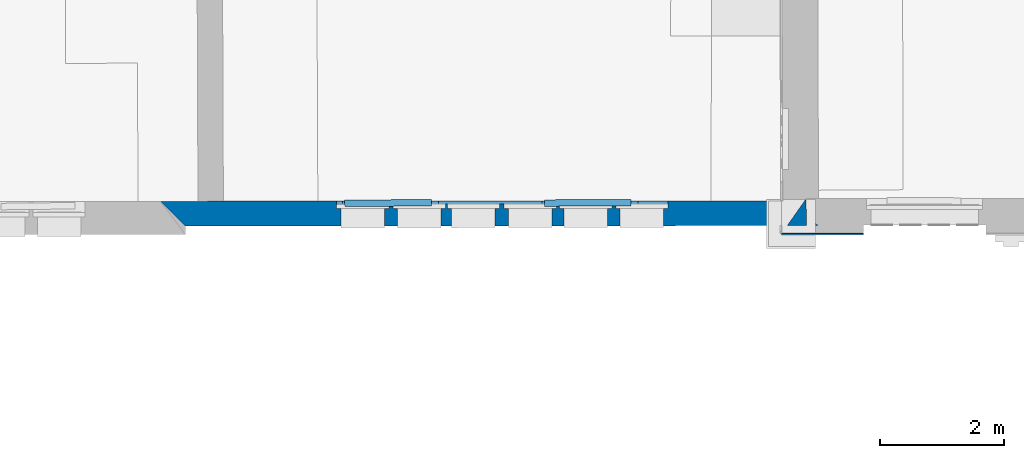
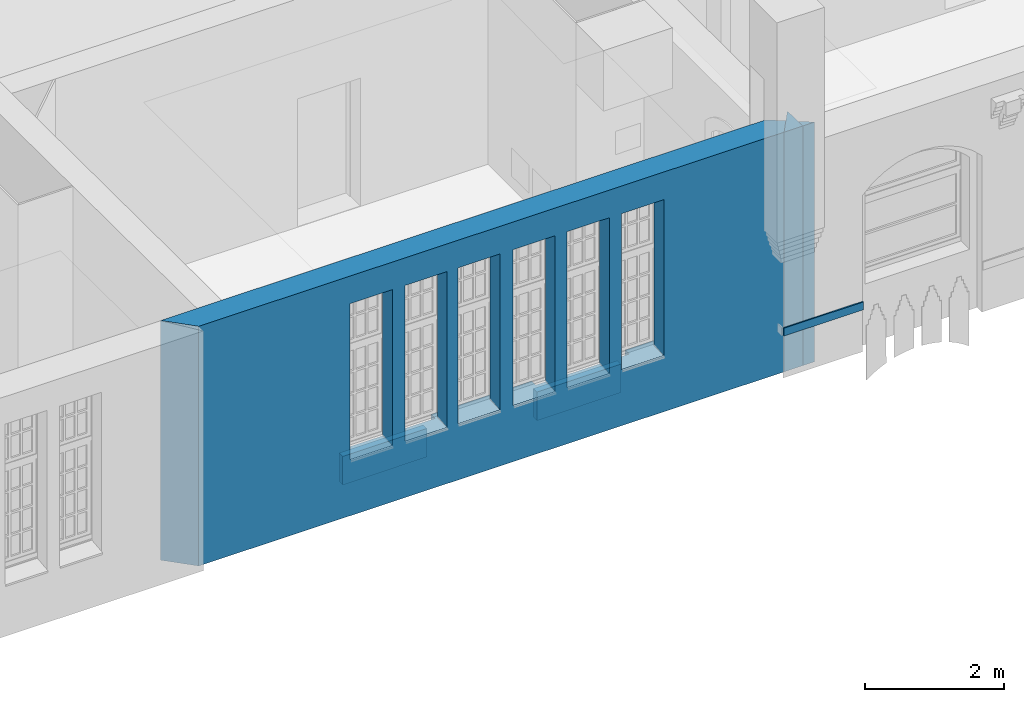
# One storey, part 25 of 90: 5 walls, 8 openings.
"""IFC2X3 building model written with IfcOpenShell, lengths in metres."""

from ifc_helpers import new_model, entity, si_unit, converted_unit, derived_unit, money_unit, direction, frame, origin_with_axes, origin_2d_with_axis, place, context, subcontext, project, spatial, polyline, rectangle, outline, extrude, material, layer, layer_set, layer_usage, type_object, element, save


model = new_model("IFC2X3")

# Units and contexts
model_context = context("Model", 3, precision=1e-05, world=origin_with_axes(), true_north=direction((0.0, 1.0)))
body_context = subcontext(model_context, "Body", "Model", "MODEL_VIEW")
ifc_project = project(units=[si_unit("LENGTHUNIT", "METRE"), si_unit("AREAUNIT", "SQUARE_METRE"), si_unit("VOLUMEUNIT", "CUBIC_METRE"), converted_unit("PLANEANGLEUNIT", "DEGREE", entity("IfcPlaneAngleMeasure", 0.0174532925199), si_unit("PLANEANGLEUNIT", "RADIAN"), dimensions=[0, 0, 0, 0, 0, 0, 0]), money_unit("EUR"), converted_unit("TIMEUNIT", "Year", entity("IfcTimeMeasure", 31556926.0), si_unit("TIMEUNIT", "SECOND"), dimensions=[0, 0, 1, 0, 0, 0, 0]), si_unit("MASSUNIT", "GRAM", prefix="KILO"), si_unit("THERMODYNAMICTEMPERATUREUNIT", "DEGREE_CELSIUS"), si_unit("LUMINOUSINTENSITYUNIT", "LUMEN"), si_unit("ENERGYUNIT", "JOULE", prefix="MEGA"), derived_unit("THERMALCONDUCTANCEUNIT", [(si_unit("POWERUNIT", "WATT"), 1), (si_unit("LENGTHUNIT", "METRE"), -1), (si_unit("THERMODYNAMICTEMPERATUREUNIT", "KELVIN"), -1)]), derived_unit("SPECIFICHEATCAPACITYUNIT", [(si_unit("ENERGYUNIT", "JOULE"), 1), (si_unit("MASSUNIT", "GRAM", prefix="KILO"), -1), (si_unit("THERMODYNAMICTEMPERATUREUNIT", "KELVIN"), -1)]), derived_unit("MASSDENSITYUNIT", [(si_unit("MASSUNIT", "GRAM", prefix="KILO"), 1), (si_unit("VOLUMEUNIT", "CUBIC_METRE"), -1)])], contexts=[model_context])

# Site, building, storey
site_placement = place(None, origin_with_axes())
site = spatial("IfcSite", under=ifc_project, at=site_placement, Name="Gelände", CompositionType="ELEMENT")
building_placement = place(site_placement, origin_with_axes())
building = spatial("IfcBuilding", under=site, at=building_placement, Name="Gebäude", CompositionType="ELEMENT")
storey_placement = place(building_placement, frame((0.0, 0.0, 3.7), z_axis=(0.0, 0.0, 1.0), x_axis=(1.0, 0.0, 0.0)))
storey = spatial("IfcBuildingStorey", under=building, at=storey_placement, Name="1.OBERGESCHOSS", CompositionType="ELEMENT", Elevation=3.7)

# Wall, openings
ifc_material_1 = material(Name="05_ALLGEMEIN - TRAGENDE BAUTEILE")
ifc_layer_1 = layer(ifc_material_1, 0.4, ventilated="UNKNOWN")
ifc_layer_set_1 = layer_set([ifc_layer_1], Name="05_ALLGEMEIN - TRAGENDE BAUTEILE 0.4")
ifc_layer_usage_1 = layer_usage(ifc_layer_set_1, "AXIS2", "NEGATIVE", 0.4)
wall_type_1 = type_object("IfcWallType", Name="05_ALLGEMEIN - TRAGENDE BAUTEILE 400", PredefinedType="ELEMENTEDWALL")
wall_1_placement = place(storey_placement, frame((12.3581359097, 10.0082322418, -0.1), z_axis=(0.0, 0.0, 1.0), x_axis=(0.99999979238, 0.000644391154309, 0.0)))
wall_1 = element("IfcWallStandardCase", 1, at=wall_1_placement, inside=storey, type_object=wall_type_1, material=ifc_layer_usage_1, Name="Wand-034", ObjectType="ELEMENTEDWALL", context=body_context, shape_type="SweptSolid", body=[
    extrude(outline(polyline([(0.0, 0.0), (10.2130504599, 0.0), (9.63191815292, 0.4), (-0.399672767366, 0.4), (0.0, 0.0)])), origin_with_axes(), (0.0, 0.0, 1.0), 4.2),
])
opening_1_placement = place(wall_1_placement, frame((7.36192937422, 0.0, 0.986122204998), z_axis=(0.0, 0.0, 1.0), x_axis=(1.0, 0.0, 0.0)))
element("IfcOpeningElement", 2, at=opening_1_placement, cuts=wall_1, Name="Fenster-015", context=body_context, shape_type="SweptSolid", body=[
    extrude(rectangle(XDim=0.700207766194, YDim=2.73, at=origin_2d_with_axis()), frame((0.0, 0.28, 1.365), z_axis=(0.0, 1.0, 0.0), x_axis=(1.0, 0.0, 0.0)), (0.0, 0.0, -1.0), 0.68),
    extrude(rectangle(XDim=0.840207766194, YDim=2.8, at=origin_2d_with_axis()), frame((0.0, 0.28, 1.4), z_axis=(0.0, 1.0, 0.0), x_axis=(1.0, 0.0, 0.0)), (0.0, 0.0, 1.0), 0.07),
    extrude(rectangle(XDim=0.874207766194, YDim=2.8, at=origin_2d_with_axis()), frame((-0.017, 0.35, 1.4), z_axis=(0.0, -1.0, 0.0), x_axis=(1.0, 0.0, 0.0)), (0.0, 0.0, -1.0), 0.45),
])
opening_2_placement = place(wall_1_placement, frame((6.45828069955, 0.0, 0.986122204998), z_axis=(0.0, 0.0, 1.0), x_axis=(1.0, 0.0, 0.0)))
element("IfcOpeningElement", 3, at=opening_2_placement, cuts=wall_1, Name="Fenster-015", context=body_context, shape_type="SweptSolid", body=[
    extrude(rectangle(XDim=0.700207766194, YDim=2.73, at=origin_2d_with_axis()), frame((0.0, 0.28, 1.365), z_axis=(0.0, 1.0, 0.0), x_axis=(1.0, 0.0, 0.0)), (0.0, 0.0, -1.0), 0.68),
    extrude(rectangle(XDim=0.840207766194, YDim=2.8, at=origin_2d_with_axis()), frame((0.0, 0.28, 1.4), z_axis=(0.0, 1.0, 0.0), x_axis=(1.0, 0.0, 0.0)), (0.0, 0.0, 1.0), 0.07),
    extrude(rectangle(XDim=0.926207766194, YDim=2.8, at=origin_2d_with_axis()), frame((-0.013, 0.35, 1.4), z_axis=(0.0, -1.0, 0.0), x_axis=(1.0, 0.0, 0.0)), (0.0, 0.0, -1.0), 0.45),
])
opening_3_placement = place(wall_1_placement, frame((5.56212191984, 0.0, 0.986122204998), z_axis=(0.0, 0.0, 1.0), x_axis=(1.0, 0.0, 0.0)))
element("IfcOpeningElement", 4, at=opening_3_placement, cuts=wall_1, Name="Fenster-015", context=body_context, shape_type="SweptSolid", body=[
    extrude(rectangle(XDim=0.700207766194, YDim=2.73, at=origin_2d_with_axis()), frame((0.0, 0.28, 1.365), z_axis=(0.0, 1.0, 0.0), x_axis=(1.0, 0.0, 0.0)), (0.0, 0.0, -1.0), 0.68),
    extrude(rectangle(XDim=0.840207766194, YDim=2.8, at=origin_2d_with_axis()), frame((0.0, 0.28, 1.4), z_axis=(0.0, 1.0, 0.0), x_axis=(1.0, 0.0, 0.0)), (0.0, 0.0, 1.0), 0.07),
    extrude(rectangle(XDim=0.886207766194, YDim=2.8, at=origin_2d_with_axis()), frame((-0.023, 0.35, 1.4), z_axis=(0.0, -1.0, 0.0), x_axis=(1.0, 0.0, 0.0)), (0.0, 0.0, -1.0), 0.45),
])
opening_4_placement = place(wall_1_placement, frame((4.64614551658, 0.0, 0.986122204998), z_axis=(0.0, 0.0, 1.0), x_axis=(1.0, 0.0, 0.0)))
element("IfcOpeningElement", 5, at=opening_4_placement, cuts=wall_1, Name="Fenster-015", context=body_context, shape_type="SweptSolid", body=[
    extrude(rectangle(XDim=0.700207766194, YDim=2.73, at=origin_2d_with_axis()), frame((0.0, 0.28, 1.365), z_axis=(0.0, 1.0, 0.0), x_axis=(1.0, 0.0, 0.0)), (0.0, 0.0, -1.0), 0.68),
    extrude(rectangle(XDim=0.840207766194, YDim=2.8, at=origin_2d_with_axis()), frame((0.0, 0.28, 1.4), z_axis=(0.0, 1.0, 0.0), x_axis=(1.0, 0.0, 0.0)), (0.0, 0.0, 1.0), 0.07),
    extrude(rectangle(XDim=0.905207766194, YDim=2.8, at=origin_2d_with_axis()), frame((-0.0025, 0.35, 1.4), z_axis=(0.0, -1.0, 0.0), x_axis=(1.0, 0.0, 0.0)), (0.0, 0.0, -1.0), 0.45),
])
opening_5_placement = place(wall_1_placement, frame((3.77155370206, 0.0, 0.986122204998), z_axis=(0.0, 0.0, 1.0), x_axis=(1.0, 0.0, 0.0)))
element("IfcOpeningElement", 6, at=opening_5_placement, cuts=wall_1, Name="Fenster-015", context=body_context, shape_type="SweptSolid", body=[
    extrude(rectangle(XDim=0.700207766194, YDim=2.73, at=origin_2d_with_axis()), frame((0.0, 0.28, 1.365), z_axis=(0.0, 1.0, 0.0), x_axis=(1.0, 0.0, 0.0)), (0.0, 0.0, -1.0), 0.68),
    extrude(rectangle(XDim=0.840207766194, YDim=2.8, at=origin_2d_with_axis()), frame((0.0, 0.28, 1.4), z_axis=(0.0, 1.0, 0.0), x_axis=(1.0, 0.0, 0.0)), (0.0, 0.0, 1.0), 0.07),
    extrude(rectangle(XDim=0.880207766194, YDim=2.8, at=origin_2d_with_axis()), frame((-0.02, 0.35, 1.4), z_axis=(0.0, -1.0, 0.0), x_axis=(1.0, 0.0, 0.0)), (0.0, 0.0, -1.0), 0.45),
])
opening_6_placement = place(wall_1_placement, frame((2.86170994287, 0.0, 0.986122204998), z_axis=(0.0, 0.0, 1.0), x_axis=(1.0, 0.0, 0.0)))
element("IfcOpeningElement", 7, at=opening_6_placement, cuts=wall_1, Name="Fenster-015", context=body_context, shape_type="SweptSolid", body=[
    extrude(rectangle(XDim=0.700207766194, YDim=2.73, at=origin_2d_with_axis()), frame((0.0, 0.28, 1.365), z_axis=(0.0, 1.0, 0.0), x_axis=(1.0, 0.0, 0.0)), (0.0, 0.0, -1.0), 0.68),
    extrude(rectangle(XDim=0.840207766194, YDim=2.8, at=origin_2d_with_axis()), frame((0.0, 0.28, 1.4), z_axis=(0.0, 1.0, 0.0), x_axis=(1.0, 0.0, 0.0)), (0.0, 0.0, 1.0), 0.07),
    extrude(rectangle(XDim=0.870207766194, YDim=2.8, at=origin_2d_with_axis()), frame((0.015, 0.35, 1.4), z_axis=(0.0, -1.0, 0.0), x_axis=(1.0, 0.0, 0.0)), (0.0, 0.0, -1.0), 0.45),
])
opening_7_placement = place(wall_1_placement, frame((3.30966441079, 0.0, 0.2), z_axis=(0.0, 0.0, 1.0), x_axis=(1.0, 0.0, 0.0)))
element("IfcOpeningElement", 8, at=opening_7_placement, cuts=wall_1, Name="Fenster-019", ObjectType="Recess", context=body_context, shape_type="SweptSolid", body=[
    extrude(rectangle(XDim=1.54930048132, YDim=0.786122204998, at=origin_2d_with_axis()), frame((0.0, 0.28, 0.393061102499), z_axis=(0.0, 1.0, 0.0), x_axis=(1.0, 0.0, 0.0)), (0.0, 0.0, 1.0), 0.52),
])
opening_8_placement = place(wall_1_placement, frame((6.52774726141, 0.0, 0.2), z_axis=(0.0, 0.0, 1.0), x_axis=(1.0, 0.0, 0.0)))
element("IfcOpeningElement", 9, at=opening_8_placement, cuts=wall_1, Name="Fenster-019", ObjectType="Recess", context=body_context, shape_type="SweptSolid", body=[
    extrude(rectangle(XDim=1.54930048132, YDim=0.786122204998, at=origin_2d_with_axis()), frame((0.0, 0.28, 0.393061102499), z_axis=(0.0, 1.0, 0.0), x_axis=(1.0, 0.0, 0.0)), (0.0, 0.0, 1.0), 0.52),
])

# Walls
ifc_layer_usage_2 = layer_usage(ifc_layer_set_1, "AXIS2", "NEGATIVE", 0.4)
wall_2_placement = place(storey_placement, frame((21.9741936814, 10.0144287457, -0.1), z_axis=(0.0, 0.0, 1.0), x_axis=(0.00946795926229, -0.999955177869, 0.0)))
element("IfcWallStandardCase", 10, at=wall_2_placement, inside=storey, type_object=wall_type_1, material=ifc_layer_usage_2, Name="Wand-035", ObjectType="ELEMENTEDWALL", context=body_context, shape_type="SweptSolid", body=[
    extrude(outline(polyline([(0.00352957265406, 0.400000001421), (-0.430838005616, 0.400000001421), (0.000791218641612, 0.0896673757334), (0.00352957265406, 0.400000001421)])), origin_with_axes(), (0.0, 0.0, 1.0), 4.2),
])
ifc_material_2 = material(Name="01_ALLGEMEIN - BAUTEIL")
ifc_layer_2 = layer(ifc_material_2, 0.105, ventilated="UNKNOWN")
ifc_layer_set_2 = layer_set([ifc_layer_2], Name="01_ALLGEMEIN - BAUTEIL 0.105")
ifc_layer_usage_3 = layer_usage(ifc_layer_set_2, "AXIS2", "NEGATIVE", 0.105)
wall_type_2 = type_object("IfcWallType", Name="01_ALLGEMEIN - BAUTEIL 105", PredefinedType="ELEMENTEDWALL")
wall_3_placement = place(storey_placement, frame((16.3266471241, 10.4350192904, 0.225519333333), z_axis=(0.0, 0.0, 1.0), x_axis=(-0.999993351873, -0.00364639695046, 0.0)))
element("IfcWallStandardCase", 11, at=wall_3_placement, inside=storey, type_object=wall_type_2, material=ifc_layer_usage_3, Name="Wand-035", ObjectType="ELEMENTEDWALL", context=body_context, shape_type="SweptSolid", body=[
    extrude(outline(polyline([(0.0, 0.0), (1.39831833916, 0.0), (1.39831833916, 0.105), (0.0, 0.105), (0.0, 0.0)])), origin_with_axes(), (0.0, 0.0, 1.0), 0.501014),
])
ifc_layer_usage_4 = layer_usage(ifc_layer_set_2, "AXIS2", "NEGATIVE", 0.105)
wall_4_placement = place(storey_placement, frame((19.5447293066, 10.4370929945, 0.225519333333), z_axis=(0.0, 0.0, 1.0), x_axis=(-0.999993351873, -0.00364639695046, 0.0)))
element("IfcWallStandardCase", 12, at=wall_4_placement, inside=storey, type_object=wall_type_2, material=ifc_layer_usage_4, Name="Wand-035", ObjectType="ELEMENTEDWALL", context=body_context, shape_type="SweptSolid", body=[
    extrude(outline(polyline([(0.0, 0.0), (1.39831833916, 0.0), (1.39831833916, 0.105), (0.0, 0.105), (0.0, 0.0)])), origin_with_axes(), (0.0, 0.0, 1.0), 0.501014),
])
wall_type_3 = type_object("IfcWallType", Name="Fassade Sims 7 23 x 138", PredefinedType="ELEMENTEDWALL")
wall_5_placement = place(storey_placement, frame((23.2938259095, 9.88928317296, 0.784829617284), z_axis=(0.0, 0.0, 1.0), x_axis=(-0.999999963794, -0.000269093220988, 0.0)))
element("IfcWall", 13, at=wall_5_placement, inside=storey, type_object=wall_type_3, material=ifc_material_2, Name="Wand-092", ObjectType="ELEMENTEDWALL", context=body_context, shape_type="SweptSolid", body=[
    extrude(outline(polyline([(0.0226167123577, 0.0), (0.0, 0.0), (0.0, -0.138037), (0.0226167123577, -0.138037), (0.0226167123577, 0.0)])), frame((0.0, 0.0, 0.0), z_axis=(1.0, 0.0, 0.0), x_axis=(0.0, 1.0, 0.0)), (0.0, 0.0, 1.0), 1.31844399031),
])

save(model, "model.ifc")
